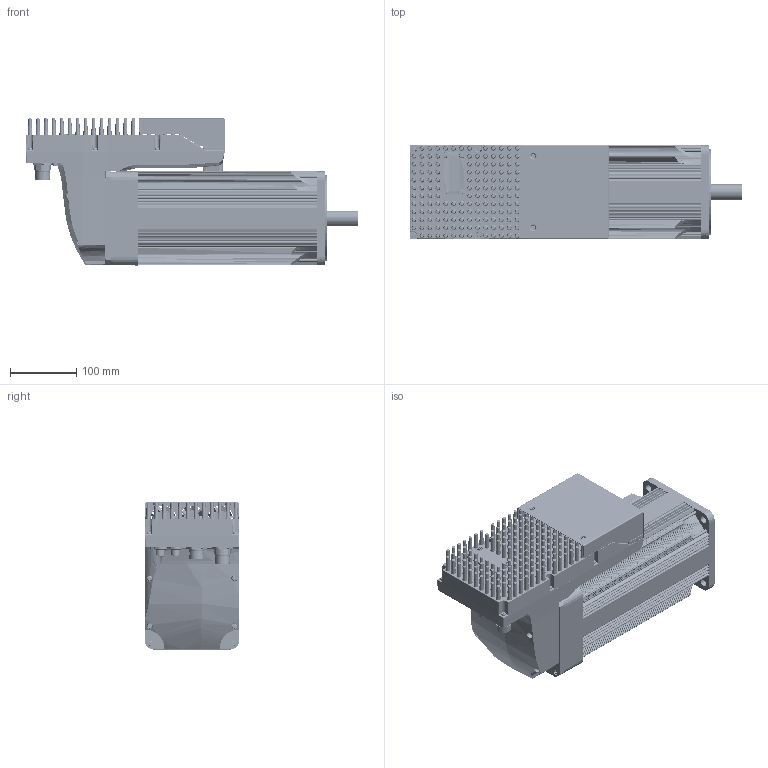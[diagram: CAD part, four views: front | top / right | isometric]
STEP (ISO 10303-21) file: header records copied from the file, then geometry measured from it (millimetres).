
FILE_DESCRIPTION( ( 'Unknown' ), '1' );
FILE_NAME( 'X:/Tecnico/ARCHIVIO PRODOTTI/11_DUET/DUET HV - CMZ/05_Disegni/DUET HV 142/Disegni DUET HV 142 - 3D step MPC/DUET.HV.142.16,5.xx.xx.1.E.3.stp', 'Unknown', ( 'Unknown' ), ( 'Unknown' ), 'PSStep 17.0.49', 'Unknown', ' ' );
FILE_SCHEMA( ( 'AUTOMOTIVE_DESIGN { 1 0 10303 214 1 1 1 1 }' ) );
Length unit declared in the file: millimetre
Products named in the file (81): J_7651000000; Connettore_M23_pot; J_7458000000; Connettore_M23_IO; J_7001919137; frutto 16+3; contatto_1mm; contatto_1.5.mm; LC091112.1.0; J_RKMHL4S55; JS26FSQ7; PC091112.1.0; J_4301236; LC091104.1.0; J_7084943101; JAC7010942001; JAC7010941001; LC101004.2.2.n; JS20MNQD6; LT709037RLF1; UKSZ8721BLI; UET1100; JTP1633-2; PC101004.1.0; DLS5977701507; DLRR; DLRV; DWFR01FR10PS; 005799000505; 005911003655; MD131106.2.0; 052410000001; MD201105.2.0; MD131108.2.0; MD131115.2.0; MD131109.2.0; dado_M8_lumberg; dado_M12_conec; Dado_M23_IO; V_VTCTX40X14A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
Assembly tree (148 placements, depth 5):
  Assem1
    003251006742
    005123001100
    005123001100
    005123001100
    005123001100
    005123001100
    005123001100
    005123001100
    005123001100
    005123001100
    005751000710
    005123000110
    005123000110
    005123000110
    005123000110
    005123000110
    005123000110
    005123000110
    005123000110
    005008000310  x3
    003103040122
    007803004340  x8
    005008000740
    005007000090
    anello di rasamento 40_46,5_0,5
    005755000080
    005911000550  x4
    MD201109.2.0
    003107003227
    005911000209  x4
    003155001000
    005911000218
    005008000668
    003151002130
    N01736
    005119000990
    005119000990
    005799000505
      005911003655  x2
      MD131106.2.0
    052410000001
      MD201105.2.0
      MD131108.2.0
      MD131115.2.0
      MD131109.2.0
      dado_M8_lumberg
      dado_M12_conec  x2
      Dado_M23_IO  x2
      V_VTCTX40X14A  x8
      V_VTCTX3X6(8.8)  x6
      ALVDD4028M24BPLB2B-7  x3
      MD081003.2.0
      LC091104.1.0
        J_7084943101
        JAC7010942001  x3
        JAC7010941001  x4
        J_7001919137
          frutto 16+3
          contatto_1mm  x16
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Bounding box: 501.5 x 143.27 x 222.09 mm (x, y, z)
Volume: 3136028 mm3; surface area: 1471122 mm2
Topology: 140 solids, 140 shells, 12512 faces, 31312 edges, 19681 vertices
Faces by surface type: plane 5660, cylinder 3593, torus 1141, bspline 957, cone 872, sphere 271, revolution 16, extrusion 2
Full cylindrical faces by diameter (mm): 0.182 x20, 0.207 x3, 0.245 x1, 0.253 x40, 0.31 x2, 0.443 x6, 0.5 x4, 0.511 x2, 0.6 x52, 0.65 x6, 0.7 x16, 0.8 x102, 0.81 x2, 0.813 x15, 0.828 x2, 0.991 x58, 1 x56, 1.092 x20, 1.14 x2, 1.295 x8, 1.363 x1, 1.4 x6, 1.5 x3, 1.55 x2, 1.6 x8, 1.8 x4, 1.98 x2, 2 x55, 2.459 x16, 2.5 x10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
Entity records: 447943 total; most frequent: CARTESIAN_POINT 148860, ORIENTED_EDGE 44458, DIRECTION 44266, EDGE_CURVE 22229, AXIS2_PLACEMENT_3D 16709, VERTEX_POINT 14857, EDGE_LOOP 12563, FACE_OUTER_BOUND 10942
